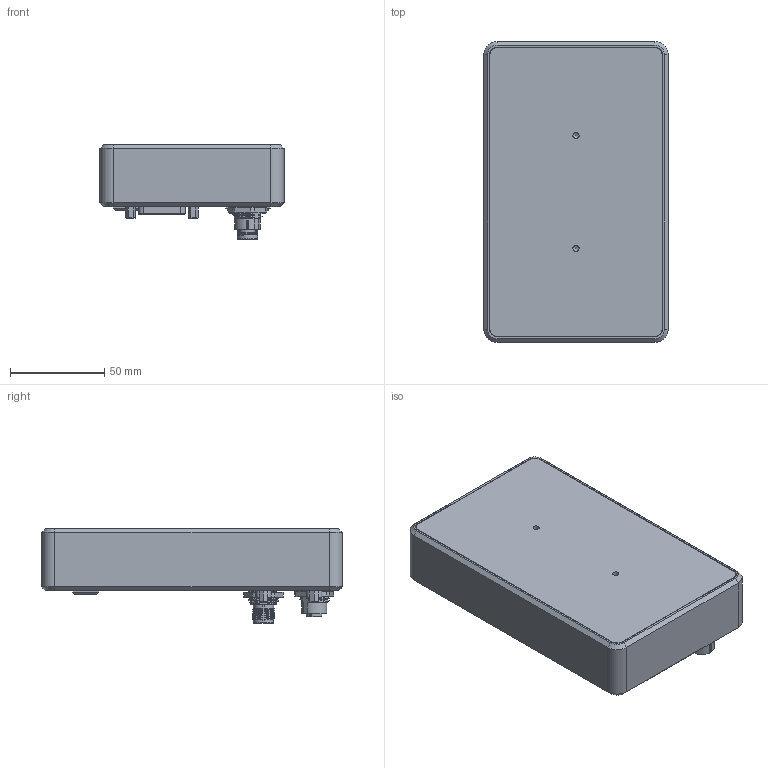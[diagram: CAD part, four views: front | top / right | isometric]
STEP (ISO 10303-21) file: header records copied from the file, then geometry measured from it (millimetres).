
FILE_DESCRIPTION(/* description */ (''),/* implementation_level */ '2;1');
FILE_NAME(/* name */ 'I:\Users\Alle\Inventor\_Projekte\254_B40.0 Irinos\Vereinfachte Modelle\B40.0 Tempbox 2_EPI_vereinfacht.stp',/* time_stamp */ '2022-11-09T10:32:14+01:00',/* author */ ('PE'),/* organization */ (''),/* preprocessor_version */ 'ST-DEVELOPER v18.1',/* originating_system */ 'Autodesk Inventor 2021',/* authorisation */ '');
FILE_SCHEMA (('AUTOMOTIVE_DESIGN { 1 0 10303 214 3 1 1 }'));
Products named in the file (1): B40.0 Tempbox 2_EPI_vereinfacht
Bounding box: 98 x 160 x 50.3 mm (x, y, z)
Volume: 519584.2 mm3; surface area: 58470.1 mm2
Topology: 1 solids, 3 shells, 1098 faces, 2892 edges, 1870 vertices
Faces by surface type: plane 480, cylinder 257, bspline 188, cone 101, torus 66, sphere 6
Full cylindrical faces by diameter (mm): 1 x5, 1.2 x30, 1.36 x1, 1.5 x4, 2.459 x7, 2.5 x1, 3 x8, 3.242 x2, 3.3 x4, 3.4 x3, 8.9 x1, 10.75 x1, 11.13 x1, 12.2 x1, 14.6 x2, 16.1 x2
Entity records: 61768 total; most frequent: CARTESIAN_POINT 34603, ORIENTED_EDGE 5772, DIRECTION 4850, EDGE_CURVE 2886, VERTEX_POINT 1870, AXIS2_PLACEMENT_3D 1721, LINE 1408, VECTOR 1408
